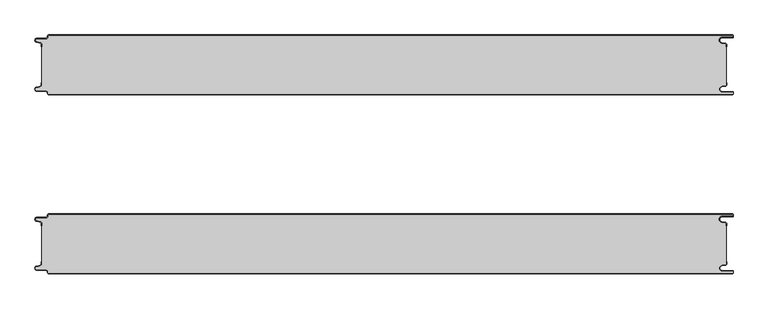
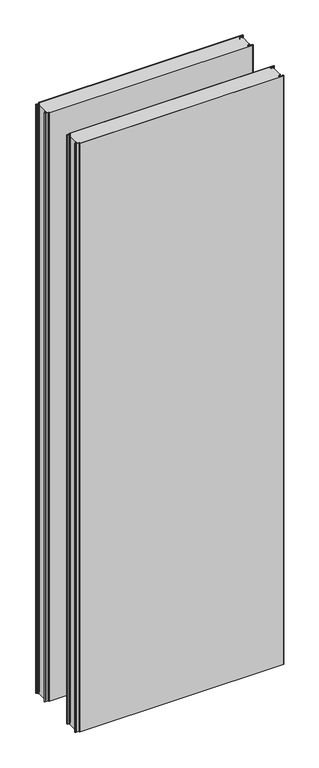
"""IFC4 building model written with IfcOpenShell, lengths in millimetres: plate geometry, Curtain-Panel_Doble-Panel-Acústico_Perfil-liso-PM1 : ACH_Doble-Panel-Acústico_PM1_100-200-100."""

from ifc_helpers import new_model, si_unit, point, frame_2d, origin, origin_with_axes, place, context, project, spatial, polyline, circle_curve, trimmed, segment, composite_curve, outline, extrude, source, transform, mapped, element, save


def plate_a2492d6a(model_context):
    return source(origin(), model_context, "Body", "SweptSolid", [
        extrude(outline(composite_curve([segment(polyline([(-562.4, -300.0), (583.1, -300.0)]), True, "CONTINUOUS"), segment(trimmed(circle_curve(frame_2d((583.1, -302.5)), 2.5), [point((583.1, -300.0))], [point((584.6, -300.5))], False, "CARTESIAN"), True, "CONTINUOUS"), segment(polyline([(584.6, -300.5), (584.6, -301.7)]), True, "CONTINUOUS"), segment(trimmed(circle_curve(frame_2d((583.1, -302.5)), 1.7), [point((584.6, -301.7))], [point((583.1, -300.8))], True, "CARTESIAN"), True, "CONTINUOUS"), segment(polyline([(583.1, -300.8), (-562.4, -300.8)]), True, "CONTINUOUS"), segment(trimmed(circle_curve(frame_2d((-562.4, -302.0)), 1.2), [point((-562.4, -300.8))], [point((-563.6, -302.0))], True, "CARTESIAN"), True, "CONTINUOUS"), segment(polyline([(-563.6, -302.0), (-563.6, -303.4)]), True, "CONTINUOUS"), segment(trimmed(circle_curve(frame_2d((-566.4, -303.4)), 2.8), [point((-563.6, -303.4))], [point((-566.4, -306.2))], False, "CARTESIAN"), True, "CONTINUOUS"), segment(polyline([(-566.4, -306.2), (-581.9, -306.2)]), True, "CONTINUOUS"), segment(trimmed(circle_curve(frame_2d((-581.9, -309.0)), 2.8), [point((-581.9, -306.2))], [point((-582.529863, -311.7282362))], True, "CARTESIAN"), True, "CONTINUOUS"), segment(polyline([(-582.529863, -311.7282362), (-576.370137, -313.150321)]), True, "CONTINUOUS"), segment(trimmed(circle_curve(frame_2d((-577.0, -315.878557)), 2.8), [point((-576.370137, -313.150321))], [point((-574.2, -315.878557))], False, "CARTESIAN"), True, "CONTINUOUS"), segment(polyline([(-574.2, -315.878557), (-574.2, -320.0), (-575.0, -320.0), (-575.0, -315.878557)]), True, "CONTINUOUS"), segment(trimmed(circle_curve(frame_2d((-577.0, -315.878557)), 2.0), [point((-575.0, -315.878557))], [point((-576.5500978, -313.9298169))], True, "CARTESIAN"), True, "CONTINUOUS"), segment(polyline([(-576.5500978, -313.9298169), (-582.7098239, -312.507732)]), True, "CONTINUOUS"), segment(trimmed(circle_curve(frame_2d((-581.9, -309.0)), 3.6), [point((-582.7098239, -312.507732))], [point((-581.9, -305.4))], False, "CARTESIAN"), True, "CONTINUOUS"), segment(polyline([(-581.9, -305.4), (-566.4, -305.4)]), True, "CONTINUOUS"), segment(trimmed(circle_curve(frame_2d((-566.4, -303.4)), 2.0), [point((-566.4, -305.4))], [point((-564.4, -303.4))], True, "CARTESIAN"), True, "CONTINUOUS"), segment(polyline([(-564.4, -303.4), (-564.4, -302.0)]), True, "CONTINUOUS"), segment(trimmed(circle_curve(frame_2d((-562.4, -302.0)), 2.0), [point((-564.4, -302.0))], [point((-562.4, -300.0))], False, "CARTESIAN"), True, "CONTINUOUS")], self_intersect=False)), origin_with_axes(), (0.0, 0.0, 1.0), 3500.0),
        extrude(outline(composite_curve([segment(polyline([(583.1, -305.0), (566.1, -305.0)]), True, "CONTINUOUS"), segment(trimmed(circle_curve(frame_2d((566.1, -309.0)), 4.0), [point((566.1, -305.0))], [point((565.4054075, -312.939231))], True, "CARTESIAN"), True, "CONTINUOUS"), segment(polyline([(565.4054075, -312.939231), (571.8514851, -314.075848)]), True, "CONTINUOUS"), segment(trimmed(circle_curve(frame_2d((571.4, -316.636348)), 2.6), [point((571.8514851, -314.075848))], [point((574.0, -316.636348))], False, "CARTESIAN"), True, "CONTINUOUS"), segment(polyline([(574.0, -316.636348), (574.0, -320.0), (573.2, -320.0), (573.2, -316.636348)]), True, "CONTINUOUS"), segment(trimmed(circle_curve(frame_2d((571.4, -316.636348)), 1.8), [point((573.2, -316.636348))], [point((571.7125666, -314.863694))], True, "CARTESIAN"), True, "CONTINUOUS"), segment(polyline([(571.7125666, -314.863694), (565.266489, -313.7270771)]), True, "CONTINUOUS"), segment(trimmed(circle_curve(frame_2d((566.1, -309.0)), 4.8), [point((565.266489, -313.7270771))], [point((566.1, -304.2))], False, "CARTESIAN"), True, "CONTINUOUS"), segment(polyline([(566.1, -304.2), (583.1, -304.2)]), True, "CONTINUOUS"), segment(trimmed(circle_curve(frame_2d((583.1, -302.5)), 1.7), [point((583.1, -304.2))], [point((584.6, -303.3))], True, "CARTESIAN"), True, "CONTINUOUS"), segment(polyline([(584.6, -303.3), (584.6, -304.5)]), True, "CONTINUOUS"), segment(trimmed(circle_curve(frame_2d((583.1, -302.5)), 2.5), [point((584.6, -304.5))], [point((583.1, -305.0))], False, "CARTESIAN"), True, "CONTINUOUS")], self_intersect=False)), origin_with_axes(), (0.0, 0.0, 1.0), 3500.0),
        extrude(outline(composite_curve([segment(polyline([(-574.2, -384.1214426), (-574.2, -315.8785573)]), True, "CONTINUOUS"), segment(trimmed(circle_curve(frame_2d((-577.0, -315.8785573)), 2.8), [point((-574.2, -315.8785573))], [point((-576.370137, -313.1503212))], True, "CARTESIAN"), True, "CONTINUOUS"), segment(polyline([(-576.370137, -313.1503212), (-582.5298631, -311.7282362)]), True, "CONTINUOUS"), segment(trimmed(circle_curve(frame_2d((-581.9, -309.0)), 2.8), [point((-582.5298631, -311.7282362))], [point((-581.9, -306.2))], False, "CARTESIAN"), True, "CONTINUOUS"), segment(polyline([(-581.9, -306.2), (-566.4000001, -306.2)]), True, "CONTINUOUS"), segment(trimmed(circle_curve(frame_2d((-566.4000001, -303.4)), 2.8), [point((-566.4000001, -306.2))], [point((-563.6000001, -303.4))], True, "CARTESIAN"), True, "CONTINUOUS"), segment(polyline([(-563.6000001, -303.4), (-563.6000001, -302.0)]), True, "CONTINUOUS"), segment(trimmed(circle_curve(frame_2d((-562.4000001, -302.0)), 1.2), [point((-563.6000001, -302.0))], [point((-562.4000001, -300.8))], False, "CARTESIAN"), True, "CONTINUOUS"), segment(polyline([(-562.4000001, -300.8), (583.1, -300.8)]), True, "CONTINUOUS"), segment(trimmed(circle_curve(frame_2d((583.1, -302.5)), 1.7), [point((583.1, -300.8))], [point((584.6, -301.7000001))], False, "CARTESIAN"), True, "CONTINUOUS"), segment(polyline([(584.6, -301.7000001), (584.6, -303.2999999)]), True, "CONTINUOUS"), segment(trimmed(circle_curve(frame_2d((583.1, -302.5)), 1.7), [point((584.6, -303.2999999))], [point((583.1, -304.2))], False, "CARTESIAN"), True, "CONTINUOUS"), segment(polyline([(583.1, -304.2), (566.1, -304.2)]), True, "CONTINUOUS"), segment(trimmed(circle_curve(frame_2d((566.1, -309.0)), 4.8), [point((566.1, -304.2))], [point((565.2664883, -313.7270771))], True, "CARTESIAN"), True, "CONTINUOUS"), segment(polyline([(565.2664883, -313.7270771), (571.7125668, -314.8636953)]), True, "CONTINUOUS"), segment(trimmed(circle_curve(frame_2d((571.4, -316.6363492)), 1.8), [point((571.7125668, -314.8636953))], [point((573.2, -316.6363492))], False, "CARTESIAN"), True, "CONTINUOUS"), segment(polyline([(573.2, -316.6363492), (573.2, -383.3636508)]), True, "CONTINUOUS"), segment(trimmed(circle_curve(frame_2d((571.4, -383.3636508)), 1.8), [point((573.2, -383.3636508))], [point((571.7125668, -385.1363047))], False, "CARTESIAN"), True, "CONTINUOUS"), segment(polyline([(571.7125668, -385.1363047), (565.2664883, -386.2729229)]), True, "CONTINUOUS"), segment(trimmed(circle_curve(frame_2d((566.1, -391.0)), 4.8), [point((565.2664883, -386.2729229))], [point((566.1, -395.8))], True, "CARTESIAN"), True, "CONTINUOUS"), segment(polyline([(566.1, -395.8), (583.1, -395.8)]), True, "CONTINUOUS"), segment(trimmed(circle_curve(frame_2d((583.1, -397.5)), 1.7), [point((583.1, -395.8))], [point((584.6, -396.7000001))], False, "CARTESIAN"), True, "CONTINUOUS"), segment(polyline([(584.6, -396.7000001), (584.6, -398.2999999)]), True, "CONTINUOUS"), segment(trimmed(circle_curve(frame_2d((583.1, -397.5)), 1.7), [point((584.6, -398.2999999))], [point((583.1, -399.2))], False, "CARTESIAN"), True, "CONTINUOUS"), segment(polyline([(583.1, -399.2), (-562.4000001, -399.2)]), True, "CONTINUOUS"), segment(trimmed(circle_curve(frame_2d((-562.4000001, -398.0)), 1.2), [point((-562.4000001, -399.2))], [point((-563.6000001, -398.0))], False, "CARTESIAN"), True, "CONTINUOUS"), segment(polyline([(-563.6000001, -398.0), (-563.6000001, -396.6)]), True, "CONTINUOUS"), segment(trimmed(circle_curve(frame_2d((-566.4000001, -396.6)), 2.8), [point((-563.6000001, -396.6))], [point((-566.4000001, -393.8))], True, "CARTESIAN"), True, "CONTINUOUS"), segment(polyline([(-566.4000001, -393.8), (-581.9, -393.8)]), True, "CONTINUOUS"), segment(trimmed(circle_curve(frame_2d((-581.9, -391.0)), 2.8), [point((-581.9, -393.8))], [point((-582.5298631, -388.2717638))], False, "CARTESIAN"), True, "CONTINUOUS"), segment(polyline([(-582.5298631, -388.2717638), (-576.370137, -386.8496788)]), True, "CONTINUOUS"), segment(trimmed(circle_curve(frame_2d((-577.0, -384.1214426)), 2.8), [point((-576.370137, -386.8496788))], [point((-574.2, -384.1214426))], True, "CARTESIAN"), True, "CONTINUOUS")], self_intersect=False)), origin_with_axes(), (0.0, 0.0, 1.0), 3500.0),
        extrude(outline(composite_curve([segment(polyline([(583.1, -400.0), (-562.4, -400.0)]), True, "CONTINUOUS"), segment(trimmed(circle_curve(frame_2d((-562.4, -398.0)), 2.0), [point((-562.4, -400.0))], [point((-564.4, -398.0))], False, "CARTESIAN"), True, "CONTINUOUS"), segment(polyline([(-564.4, -398.0), (-564.4, -396.6)]), True, "CONTINUOUS"), segment(trimmed(circle_curve(frame_2d((-566.4, -396.6)), 2.0), [point((-564.4, -396.6))], [point((-566.4, -394.6))], True, "CARTESIAN"), True, "CONTINUOUS"), segment(polyline([(-566.4, -394.6), (-581.9, -394.6)]), True, "CONTINUOUS"), segment(trimmed(circle_curve(frame_2d((-581.9, -391.0)), 3.6), [point((-581.9, -394.6))], [point((-582.7098239, -387.4922678))], False, "CARTESIAN"), True, "CONTINUOUS"), segment(polyline([(-582.7098239, -387.4922678), (-576.5500979, -386.070183)]), True, "CONTINUOUS"), segment(trimmed(circle_curve(frame_2d((-577.0, -384.121443)), 2.0), [point((-576.5500979, -386.070183))], [point((-575.0, -384.121443))], True, "CARTESIAN"), True, "CONTINUOUS"), segment(polyline([(-575.0, -384.121443), (-575.0, -380.0), (-574.2, -380.0), (-574.2, -384.121443)]), True, "CONTINUOUS"), segment(trimmed(circle_curve(frame_2d((-577.0, -384.121443)), 2.8), [point((-574.2, -384.121443))], [point((-576.370137, -386.8496792))], False, "CARTESIAN"), True, "CONTINUOUS"), segment(polyline([(-576.370137, -386.8496792), (-582.529863, -388.271764)]), True, "CONTINUOUS"), segment(trimmed(circle_curve(frame_2d((-581.9, -391.0)), 2.8), [point((-582.529863, -388.271764))], [point((-581.9, -393.8))], True, "CARTESIAN"), True, "CONTINUOUS"), segment(polyline([(-581.9, -393.8), (-566.4, -393.8)]), True, "CONTINUOUS"), segment(trimmed(circle_curve(frame_2d((-566.4, -396.6)), 2.8), [point((-566.4, -393.8))], [point((-563.6, -396.6))], False, "CARTESIAN"), True, "CONTINUOUS"), segment(polyline([(-563.6, -396.6), (-563.6, -398.0)]), True, "CONTINUOUS"), segment(trimmed(circle_curve(frame_2d((-562.4, -398.0)), 1.2), [point((-563.6, -398.0))], [point((-562.4, -399.2))], True, "CARTESIAN"), True, "CONTINUOUS"), segment(polyline([(-562.4, -399.2), (583.1, -399.2)]), True, "CONTINUOUS"), segment(trimmed(circle_curve(frame_2d((583.1, -397.5)), 1.7), [point((583.1, -399.2))], [point((584.6, -398.3))], True, "CARTESIAN"), True, "CONTINUOUS"), segment(polyline([(584.6, -398.3), (584.6, -399.5)]), True, "CONTINUOUS"), segment(trimmed(circle_curve(frame_2d((583.1, -397.5)), 2.5), [point((584.6, -399.5))], [point((583.1, -400.0))], False, "CARTESIAN"), True, "CONTINUOUS")], self_intersect=False)), origin_with_axes(), (0.0, 0.0, 1.0), 3500.0),
        extrude(outline(composite_curve([segment(polyline([(583.1, -395.8), (566.1, -395.8)]), True, "CONTINUOUS"), segment(trimmed(circle_curve(frame_2d((566.1, -391.0)), 4.8), [point((566.1, -395.8))], [point((565.266489, -386.2729227))], False, "CARTESIAN"), True, "CONTINUOUS"), segment(polyline([(565.266489, -386.2729227), (571.7125666, -385.1363058)]), True, "CONTINUOUS"), segment(trimmed(circle_curve(frame_2d((571.4, -383.363652)), 1.8), [point((571.7125666, -385.1363058))], [point((573.2, -383.363652))], True, "CARTESIAN"), True, "CONTINUOUS"), segment(polyline([(573.2, -383.363652), (573.2, -380.0), (574.0, -380.0), (574.0, -383.363652)]), True, "CONTINUOUS"), segment(trimmed(circle_curve(frame_2d((571.4, -383.363652)), 2.6), [point((574.0, -383.363652))], [point((571.8514851, -385.9241522))], False, "CARTESIAN"), True, "CONTINUOUS"), segment(polyline([(571.8514851, -385.9241522), (565.4054075, -387.0607691)]), True, "CONTINUOUS"), segment(trimmed(circle_curve(frame_2d((566.1, -391.0)), 4.0), [point((565.4054075, -387.0607691))], [point((566.1, -395.0))], True, "CARTESIAN"), True, "CONTINUOUS"), segment(polyline([(566.1, -395.0), (583.1, -395.0)]), True, "CONTINUOUS"), segment(trimmed(circle_curve(frame_2d((583.1, -397.5)), 2.5), [point((583.1, -395.0))], [point((584.6, -395.5))], False, "CARTESIAN"), True, "CONTINUOUS"), segment(polyline([(584.6, -395.5), (584.6, -396.7)]), True, "CONTINUOUS"), segment(trimmed(circle_curve(frame_2d((583.1, -397.5)), 1.7), [point((584.6, -396.7))], [point((583.1, -395.8))], True, "CARTESIAN"), True, "CONTINUOUS")], self_intersect=False)), origin_with_axes(), (0.0, 0.0, 1.0), 3500.0),
        extrude(outline(composite_curve([segment(polyline([(-562.4, 0.0), (583.1, 0.0)]), True, "CONTINUOUS"), segment(trimmed(circle_curve(frame_2d((583.1, -2.5)), 2.5), [point((583.1, 0.0))], [point((584.6, -0.5))], False, "CARTESIAN"), True, "CONTINUOUS"), segment(polyline([(584.6, -0.5), (584.6, -1.7)]), True, "CONTINUOUS"), segment(trimmed(circle_curve(frame_2d((583.1, -2.5)), 1.7), [point((584.6, -1.7))], [point((583.1, -0.8))], True, "CARTESIAN"), True, "CONTINUOUS"), segment(polyline([(583.1, -0.8), (-562.4, -0.8)]), True, "CONTINUOUS"), segment(trimmed(circle_curve(frame_2d((-562.4, -2.0)), 1.2), [point((-562.4, -0.8))], [point((-563.6, -2.0))], True, "CARTESIAN"), True, "CONTINUOUS"), segment(polyline([(-563.6, -2.0), (-563.6, -3.4)]), True, "CONTINUOUS"), segment(trimmed(circle_curve(frame_2d((-566.4, -3.4)), 2.8), [point((-563.6, -3.4))], [point((-566.4, -6.2))], False, "CARTESIAN"), True, "CONTINUOUS"), segment(polyline([(-566.4, -6.2), (-581.9, -6.2)]), True, "CONTINUOUS"), segment(trimmed(circle_curve(frame_2d((-581.9, -9.0)), 2.8), [point((-581.9, -6.2))], [point((-582.529863, -11.7282362))], True, "CARTESIAN"), True, "CONTINUOUS"), segment(polyline([(-582.529863, -11.7282362), (-576.370137, -13.150321)]), True, "CONTINUOUS"), segment(trimmed(circle_curve(frame_2d((-577.0, -15.878557)), 2.8), [point((-576.370137, -13.150321))], [point((-574.2, -15.878557))], False, "CARTESIAN"), True, "CONTINUOUS"), segment(polyline([(-574.2, -15.878557), (-574.2, -20.0), (-575.0, -20.0), (-575.0, -15.878557)]), True, "CONTINUOUS"), segment(trimmed(circle_curve(frame_2d((-577.0, -15.878557)), 2.0), [point((-575.0, -15.878557))], [point((-576.5500978, -13.9298169))], True, "CARTESIAN"), True, "CONTINUOUS"), segment(polyline([(-576.5500978, -13.9298169), (-582.7098239, -12.507732)]), True, "CONTINUOUS"), segment(trimmed(circle_curve(frame_2d((-581.9, -9.0)), 3.6), [point((-582.7098239, -12.507732))], [point((-581.9, -5.4))], False, "CARTESIAN"), True, "CONTINUOUS"), segment(polyline([(-581.9, -5.4), (-566.4, -5.4)]), True, "CONTINUOUS"), segment(trimmed(circle_curve(frame_2d((-566.4, -3.4)), 2.0), [point((-566.4, -5.4))], [point((-564.4, -3.4))], True, "CARTESIAN"), True, "CONTINUOUS"), segment(polyline([(-564.4, -3.4), (-564.4, -2.0)]), True, "CONTINUOUS"), segment(trimmed(circle_curve(frame_2d((-562.4, -2.0)), 2.0), [point((-564.4, -2.0))], [point((-562.4, 0.0))], False, "CARTESIAN"), True, "CONTINUOUS")], self_intersect=False)), origin_with_axes(), (0.0, 0.0, 1.0), 3500.0),
        extrude(outline(composite_curve([segment(polyline([(583.1, -5.0), (566.1, -5.0)]), True, "CONTINUOUS"), segment(trimmed(circle_curve(frame_2d((566.1, -9.0)), 4.0), [point((566.1, -5.0))], [point((565.4054075, -12.939231))], True, "CARTESIAN"), True, "CONTINUOUS"), segment(polyline([(565.4054075, -12.939231), (571.8514851, -14.075848)]), True, "CONTINUOUS"), segment(trimmed(circle_curve(frame_2d((571.4, -16.636348)), 2.6), [point((571.8514851, -14.075848))], [point((574.0, -16.636348))], False, "CARTESIAN"), True, "CONTINUOUS"), segment(polyline([(574.0, -16.636348), (574.0, -20.0), (573.2, -20.0), (573.2, -16.636348)]), True, "CONTINUOUS"), segment(trimmed(circle_curve(frame_2d((571.4, -16.636348)), 1.8), [point((573.2, -16.636348))], [point((571.7125666, -14.863694))], True, "CARTESIAN"), True, "CONTINUOUS"), segment(polyline([(571.7125666, -14.863694), (565.266489, -13.7270771)]), True, "CONTINUOUS"), segment(trimmed(circle_curve(frame_2d((566.1, -9.0)), 4.8), [point((565.266489, -13.7270771))], [point((566.1, -4.2))], False, "CARTESIAN"), True, "CONTINUOUS"), segment(polyline([(566.1, -4.2), (583.1, -4.2)]), True, "CONTINUOUS"), segment(trimmed(circle_curve(frame_2d((583.1, -2.5)), 1.7), [point((583.1, -4.2))], [point((584.6, -3.3))], True, "CARTESIAN"), True, "CONTINUOUS"), segment(polyline([(584.6, -3.3), (584.6, -4.5)]), True, "CONTINUOUS"), segment(trimmed(circle_curve(frame_2d((583.1, -2.5)), 2.5), [point((584.6, -4.5))], [point((583.1, -5.0))], False, "CARTESIAN"), True, "CONTINUOUS")], self_intersect=False)), origin_with_axes(), (0.0, 0.0, 1.0), 3500.0),
        extrude(outline(composite_curve([segment(polyline([(-574.2, -84.1214426), (-574.2, -15.8785573)]), True, "CONTINUOUS"), segment(trimmed(circle_curve(frame_2d((-577.0, -15.8785573)), 2.8), [point((-574.2, -15.8785573))], [point((-576.370137, -13.1503212))], True, "CARTESIAN"), True, "CONTINUOUS"), segment(polyline([(-576.370137, -13.1503212), (-582.5298631, -11.7282362)]), True, "CONTINUOUS"), segment(trimmed(circle_curve(frame_2d((-581.9, -9.0)), 2.8), [point((-582.5298631, -11.7282362))], [point((-581.9, -6.2))], False, "CARTESIAN"), True, "CONTINUOUS"), segment(polyline([(-581.9, -6.2), (-566.4000001, -6.2)]), True, "CONTINUOUS"), segment(trimmed(circle_curve(frame_2d((-566.4000001, -3.4)), 2.8), [point((-566.4000001, -6.2))], [point((-563.6000001, -3.4))], True, "CARTESIAN"), True, "CONTINUOUS"), segment(polyline([(-563.6000001, -3.4), (-563.6000001, -2.0)]), True, "CONTINUOUS"), segment(trimmed(circle_curve(frame_2d((-562.4000001, -2.0)), 1.2), [point((-563.6000001, -2.0))], [point((-562.4000001, -0.8))], False, "CARTESIAN"), True, "CONTINUOUS"), segment(polyline([(-562.4000001, -0.8), (583.1, -0.8)]), True, "CONTINUOUS"), segment(trimmed(circle_curve(frame_2d((583.1, -2.5)), 1.7), [point((583.1, -0.8))], [point((584.6, -1.7000001))], False, "CARTESIAN"), True, "CONTINUOUS"), segment(polyline([(584.6, -1.7000001), (584.6, -3.2999999)]), True, "CONTINUOUS"), segment(trimmed(circle_curve(frame_2d((583.1, -2.5)), 1.7), [point((584.6, -3.2999999))], [point((583.1, -4.2))], False, "CARTESIAN"), True, "CONTINUOUS"), segment(polyline([(583.1, -4.2), (566.1, -4.2)]), True, "CONTINUOUS"), segment(trimmed(circle_curve(frame_2d((566.1, -9.0)), 4.8), [point((566.1, -4.2))], [point((565.2664883, -13.7270771))], True, "CARTESIAN"), True, "CONTINUOUS"), segment(polyline([(565.2664883, -13.7270771), (571.7125668, -14.8636953)]), True, "CONTINUOUS"), segment(trimmed(circle_curve(frame_2d((571.4, -16.6363492)), 1.8), [point((571.7125668, -14.8636953))], [point((573.2, -16.6363492))], False, "CARTESIAN"), True, "CONTINUOUS"), segment(polyline([(573.2, -16.6363492), (573.2, -83.3636508)]), True, "CONTINUOUS"), segment(trimmed(circle_curve(frame_2d((571.4, -83.3636508)), 1.8), [point((573.2, -83.3636508))], [point((571.7125668, -85.1363047))], False, "CARTESIAN"), True, "CONTINUOUS"), segment(polyline([(571.7125668, -85.1363047), (565.2664883, -86.2729229)]), True, "CONTINUOUS"), segment(trimmed(circle_curve(frame_2d((566.1, -91.0)), 4.8), [point((565.2664883, -86.2729229))], [point((566.1, -95.8))], True, "CARTESIAN"), True, "CONTINUOUS"), segment(polyline([(566.1, -95.8), (583.1, -95.8)]), True, "CONTINUOUS"), segment(trimmed(circle_curve(frame_2d((583.1, -97.5)), 1.7), [point((583.1, -95.8))], [point((584.6, -96.7000001))], False, "CARTESIAN"), True, "CONTINUOUS"), segment(polyline([(584.6, -96.7000001), (584.6, -98.2999999)]), True, "CONTINUOUS"), segment(trimmed(circle_curve(frame_2d((583.1, -97.5)), 1.7), [point((584.6, -98.2999999))], [point((583.1, -99.2))], False, "CARTESIAN"), True, "CONTINUOUS"), segment(polyline([(583.1, -99.2), (-562.4000001, -99.2)]), True, "CONTINUOUS"), segment(trimmed(circle_curve(frame_2d((-562.4000001, -98.0)), 1.2), [point((-562.4000001, -99.2))], [point((-563.6000001, -98.0))], False, "CARTESIAN"), True, "CONTINUOUS"), segment(polyline([(-563.6000001, -98.0), (-563.6000001, -96.6)]), True, "CONTINUOUS"), segment(trimmed(circle_curve(frame_2d((-566.4000001, -96.6)), 2.8), [point((-563.6000001, -96.6))], [point((-566.4000001, -93.8))], True, "CARTESIAN"), True, "CONTINUOUS"), segment(polyline([(-566.4000001, -93.8), (-581.9, -93.8)]), True, "CONTINUOUS"), segment(trimmed(circle_curve(frame_2d((-581.9, -91.0)), 2.8), [point((-581.9, -93.8))], [point((-582.5298631, -88.2717638))], False, "CARTESIAN"), True, "CONTINUOUS"), segment(polyline([(-582.5298631, -88.2717638), (-576.370137, -86.8496788)]), True, "CONTINUOUS"), segment(trimmed(circle_curve(frame_2d((-577.0, -84.1214426)), 2.8), [point((-576.370137, -86.8496788))], [point((-574.2, -84.1214426))], True, "CARTESIAN"), True, "CONTINUOUS")], self_intersect=False)), origin_with_axes(), (0.0, 0.0, 1.0), 3500.0),
        extrude(outline(composite_curve([segment(polyline([(583.1, -100.0), (-562.4, -100.0)]), True, "CONTINUOUS"), segment(trimmed(circle_curve(frame_2d((-562.4, -98.0)), 2.0), [point((-562.4, -100.0))], [point((-564.4, -98.0))], False, "CARTESIAN"), True, "CONTINUOUS"), segment(polyline([(-564.4, -98.0), (-564.4, -96.6)]), True, "CONTINUOUS"), segment(trimmed(circle_curve(frame_2d((-566.4, -96.6)), 2.0), [point((-564.4, -96.6))], [point((-566.4, -94.6))], True, "CARTESIAN"), True, "CONTINUOUS"), segment(polyline([(-566.4, -94.6), (-581.9, -94.6)]), True, "CONTINUOUS"), segment(trimmed(circle_curve(frame_2d((-581.9, -91.0)), 3.6), [point((-581.9, -94.6))], [point((-582.7098239, -87.4922678))], False, "CARTESIAN"), True, "CONTINUOUS"), segment(polyline([(-582.7098239, -87.4922678), (-576.5500979, -86.070183)]), True, "CONTINUOUS"), segment(trimmed(circle_curve(frame_2d((-577.0, -84.121443)), 2.0), [point((-576.5500979, -86.070183))], [point((-575.0, -84.121443))], True, "CARTESIAN"), True, "CONTINUOUS"), segment(polyline([(-575.0, -84.121443), (-575.0, -80.0), (-574.2, -80.0), (-574.2, -84.121443)]), True, "CONTINUOUS"), segment(trimmed(circle_curve(frame_2d((-577.0, -84.121443)), 2.8), [point((-574.2, -84.121443))], [point((-576.370137, -86.8496792))], False, "CARTESIAN"), True, "CONTINUOUS"), segment(polyline([(-576.370137, -86.8496792), (-582.529863, -88.271764)]), True, "CONTINUOUS"), segment(trimmed(circle_curve(frame_2d((-581.9, -91.0)), 2.8), [point((-582.529863, -88.271764))], [point((-581.9, -93.8))], True, "CARTESIAN"), True, "CONTINUOUS"), segment(polyline([(-581.9, -93.8), (-566.4, -93.8)]), True, "CONTINUOUS"), segment(trimmed(circle_curve(frame_2d((-566.4, -96.6)), 2.8), [point((-566.4, -93.8))], [point((-563.6, -96.6))], False, "CARTESIAN"), True, "CONTINUOUS"), segment(polyline([(-563.6, -96.6), (-563.6, -98.0)]), True, "CONTINUOUS"), segment(trimmed(circle_curve(frame_2d((-562.4, -98.0)), 1.2), [point((-563.6, -98.0))], [point((-562.4, -99.2))], True, "CARTESIAN"), True, "CONTINUOUS"), segment(polyline([(-562.4, -99.2), (583.1, -99.2)]), True, "CONTINUOUS"), segment(trimmed(circle_curve(frame_2d((583.1, -97.5)), 1.7), [point((583.1, -99.2))], [point((584.6, -98.3))], True, "CARTESIAN"), True, "CONTINUOUS"), segment(polyline([(584.6, -98.3), (584.6, -99.5)]), True, "CONTINUOUS"), segment(trimmed(circle_curve(frame_2d((583.1, -97.5)), 2.5), [point((584.6, -99.5))], [point((583.1, -100.0))], False, "CARTESIAN"), True, "CONTINUOUS")], self_intersect=False)), origin_with_axes(), (0.0, 0.0, 1.0), 3500.0),
        extrude(outline(composite_curve([segment(polyline([(583.1, -95.8), (566.1, -95.8)]), True, "CONTINUOUS"), segment(trimmed(circle_curve(frame_2d((566.1, -91.0)), 4.8), [point((566.1, -95.8))], [point((565.266489, -86.2729227))], False, "CARTESIAN"), True, "CONTINUOUS"), segment(polyline([(565.266489, -86.2729227), (571.7125666, -85.1363058)]), True, "CONTINUOUS"), segment(trimmed(circle_curve(frame_2d((571.4, -83.363652)), 1.8), [point((571.7125666, -85.1363058))], [point((573.2, -83.363652))], True, "CARTESIAN"), True, "CONTINUOUS"), segment(polyline([(573.2, -83.363652), (573.2, -80.0), (574.0, -80.0), (574.0, -83.363652)]), True, "CONTINUOUS"), segment(trimmed(circle_curve(frame_2d((571.4, -83.363652)), 2.6), [point((574.0, -83.363652))], [point((571.8514851, -85.9241522))], False, "CARTESIAN"), True, "CONTINUOUS"), segment(polyline([(571.8514851, -85.9241522), (565.4054075, -87.0607691)]), True, "CONTINUOUS"), segment(trimmed(circle_curve(frame_2d((566.1, -91.0)), 4.0), [point((565.4054075, -87.0607691))], [point((566.1, -95.0))], True, "CARTESIAN"), True, "CONTINUOUS"), segment(polyline([(566.1, -95.0), (583.1, -95.0)]), True, "CONTINUOUS"), segment(trimmed(circle_curve(frame_2d((583.1, -97.5)), 2.5), [point((583.1, -95.0))], [point((584.6, -95.5))], False, "CARTESIAN"), True, "CONTINUOUS"), segment(polyline([(584.6, -95.5), (584.6, -96.7)]), True, "CONTINUOUS"), segment(trimmed(circle_curve(frame_2d((583.1, -97.5)), 1.7), [point((584.6, -96.7))], [point((583.1, -95.8))], True, "CARTESIAN"), True, "CONTINUOUS")], self_intersect=False)), origin_with_axes(), (0.0, 0.0, 1.0), 3500.0),
    ])


if __name__ == "__main__":
    model = new_model("IFC4")
    model_context = context("Model", 3, world=origin())
    ifc_project = project(units=[si_unit("LENGTHUNIT", "METRE", prefix="MILLI")], contexts=[model_context])
    site = spatial("IfcSite", under=ifc_project)
    building = spatial("IfcBuilding", under=site)
    placement = place(None, origin())
    plate_shape = plate_a2492d6a(model_context)
    element("IfcPlate", 1, ObjectType="Curtain-Panel_Doble-Panel-Acústico_Perfil-liso-PM1 : ACH_Doble-Panel-Acústico_PM1_100-200-100", at=placement, inside=building, context=model_context, shape_type="MappedRepresentation", body=[
        mapped(plate_shape, transform((0.0, 0.0, 0.0), x_axis=(1.0, 0.0, 0.0), y_axis=(0.0, 1.0, 0.0), z_axis=(0.0, 0.0, 1.0))),
    ])
    save(model, "model.ifc")
